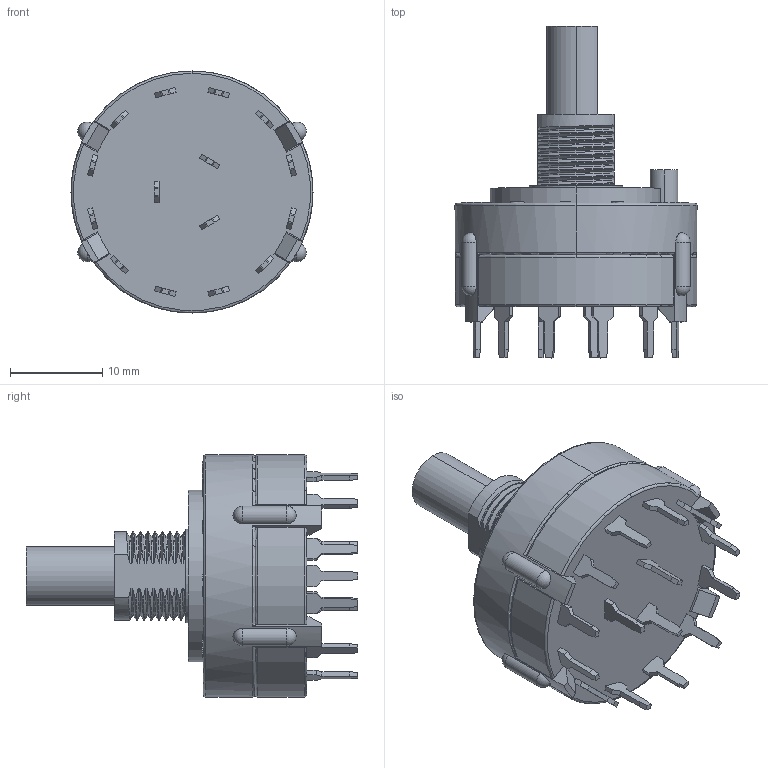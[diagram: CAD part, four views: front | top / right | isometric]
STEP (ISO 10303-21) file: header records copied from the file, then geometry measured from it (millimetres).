
FILE_DESCRIPTION (( 'STEP AP214' ), '1' );
FILE_NAME ('A30403RNCQ.STEP', '2025-04-02T02:13:52', ( '' ), ( '' ), 'SwSTEP 2.0', 'SolidWorks 2021', '' );
FILE_SCHEMA (( 'AUTOMOTIVE_DESIGN' ));
Length unit declared in the file: inch
Products named in the file (1): A30403RNCQ
Bounding box: 26.19 x 35.89 x 26.19 mm (x, y, z)
Volume: 7222.4 mm3; surface area: 3503.1 mm2
Topology: 16 solids, 16 shells, 585 faces, 1536 edges, 1014 vertices
Faces by surface type: plane 341, bspline 141, cylinder 74, torus 17, sphere 12
Entity records: 39310 total; most frequent: CARTESIAN_POINT 25978, ORIENTED_EDGE 3040, DIRECTION 2149, EDGE_CURVE 1520, VERTEX_POINT 1006, LINE 969, VECTOR 969, EDGE_LOOP 624
